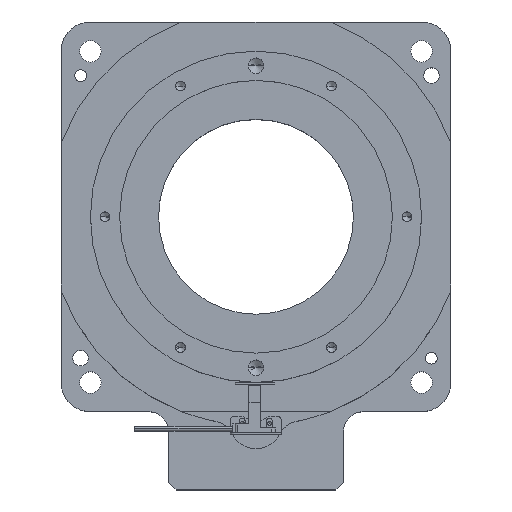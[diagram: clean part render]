
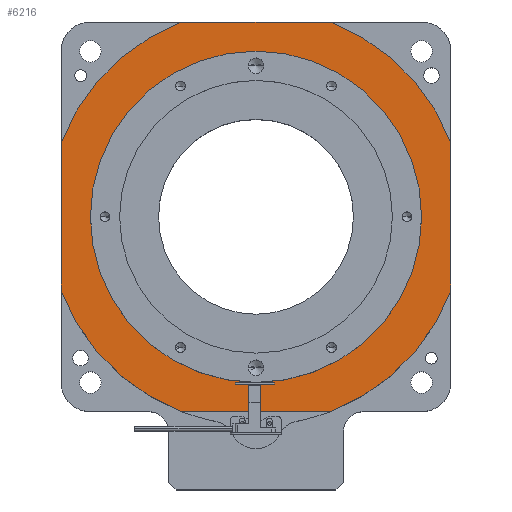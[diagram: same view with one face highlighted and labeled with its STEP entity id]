
A CAD part, top view. The second image highlights one B-rep face of the part: STEP entity #6216.
In plain terms, the highlighted planar face has unit normal (0, 0, 1).
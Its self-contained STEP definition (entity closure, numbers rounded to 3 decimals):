
#211 = ORIENTED_EDGE ( 'NONE', *, *, #3768, .T. ) ;
#305 = AXIS2_PLACEMENT_3D ( 'NONE', #7311, #8568, #551 ) ;
#413 = ORIENTED_EDGE ( 'NONE', *, *, #5952, .T. ) ;
#463 = VECTOR ( 'NONE', #1642, 1000. ) ;
#537 = DIRECTION ( 'NONE',  ( 1., 0., 0. ) ) ;
#551 = DIRECTION ( 'NONE',  ( 1., 0., 0. ) ) ;
#596 = VERTEX_POINT ( 'NONE', #8216 ) ;
#657 = LINE ( 'NONE', #5968, #1710 ) ;
#825 = ORIENTED_EDGE ( 'NONE', *, *, #4043, .T. ) ;
#895 = ORIENTED_EDGE ( 'NONE', *, *, #1575, .T. ) ;
#959 = EDGE_CURVE ( 'NONE', #3040, #4188, #7406, .T. ) ;
#1072 = CARTESIAN_POINT ( 'NONE',  ( -114.791, 29.23, 40.6 ) ) ;
#1224 = CARTESIAN_POINT ( 'NONE',  ( -114.791, 29.23, 40.6 ) ) ;
#1513 = DIRECTION ( 'NONE',  ( 1., 0., 0. ) ) ;
#1547 = VERTEX_POINT ( 'NONE', #2900 ) ;
#1575 = EDGE_CURVE ( 'NONE', #596, #7788, #8519, .T. ) ;
#1642 = DIRECTION ( 'NONE',  ( 1., 0., 0. ) ) ;
#1676 = EDGE_CURVE ( 'NONE', #1547, #5981, #6280, .T. ) ;
#1710 = VECTOR ( 'NONE', #8059, 1000. ) ;
#1877 = DIRECTION ( 'NONE',  ( 1., 0., 0. ) ) ;
#1943 = AXIS2_PLACEMENT_3D ( 'NONE', #5885, #6410, #537 ) ;
#2061 = DIRECTION ( 'NONE',  ( 1., 0., 0. ) ) ;
#2284 = DIRECTION ( 'NONE',  ( -1., 0., 0. ) ) ;
#2310 = CARTESIAN_POINT ( 'NONE',  ( -14.791, -8.836, 40.6 ) ) ;
#2725 = CIRCLE ( 'NONE', #4562, 107. ) ;
#2742 = ORIENTED_EDGE ( 'NONE', *, *, #959, .T. ) ;
#2900 = CARTESIAN_POINT ( 'NONE',  ( 85.209, 29.23, 40.6 ) ) ;
#3040 = VERTEX_POINT ( 'NONE', #1072 ) ;
#3177 = CARTESIAN_POINT ( 'NONE',  ( -114.791, -46.901, 40.6 ) ) ;
#3228 = ORIENTED_EDGE ( 'NONE', *, *, #4319, .T. ) ;
#3289 = PLANE ( 'NONE',  #4693 ) ;
#3417 = FACE_OUTER_BOUND ( 'NONE', #5072, .T. ) ;
#3469 = VECTOR ( 'NONE', #7328, 1000. ) ;
#3644 = CARTESIAN_POINT ( 'NONE',  ( -14.791, -8.836, 40.6 ) ) ;
#3768 = EDGE_CURVE ( 'NONE', #6246, #5624, #8150, .T. ) ;
#3833 = ORIENTED_EDGE ( 'NONE', *, *, #1676, .T. ) ;
#3900 = AXIS2_PLACEMENT_3D ( 'NONE', #3644, #4926, #6948 ) ;
#3931 = VERTEX_POINT ( 'NONE', #8668 ) ;
#3992 = FACE_BOUND ( 'NONE', #7953, .T. ) ;
#4043 = EDGE_CURVE ( 'NONE', #5019, #596, #6212, .T. ) ;
#4076 = CIRCLE ( 'NONE', #305, 107. ) ;
#4188 = VERTEX_POINT ( 'NONE', #3177 ) ;
#4192 = CARTESIAN_POINT ( 'NONE',  ( -14.791, -8.836, 40.6 ) ) ;
#4300 = LINE ( 'NONE', #6984, #8032 ) ;
#4319 = EDGE_CURVE ( 'NONE', #4188, #5019, #4076, .T. ) ;
#4562 = AXIS2_PLACEMENT_3D ( 'NONE', #2310, #5596, #1513 ) ;
#4582 = AXIS2_PLACEMENT_3D ( 'NONE', #4192, #8229, #6261 ) ;
#4693 = AXIS2_PLACEMENT_3D ( 'NONE', #5971, #4782, #2061 ) ;
#4782 = DIRECTION ( 'NONE',  ( 0., 0., 1. ) ) ;
#4888 = ORIENTED_EDGE ( 'NONE', *, *, #5053, .T. ) ;
#4926 = DIRECTION ( 'NONE',  ( 0., 0., 1. ) ) ;
#5019 = VERTEX_POINT ( 'NONE', #6712 ) ;
#5053 = EDGE_CURVE ( 'NONE', #7788, #1547, #657, .T. ) ;
#5072 = EDGE_LOOP ( 'NONE', ( #3228, #825, #895, #4888, #3833, #413, #6644, #2742 ) ) ;
#5436 = CARTESIAN_POINT ( 'NONE',  ( -99.791, -8.836, 40.6 ) ) ;
#5596 = DIRECTION ( 'NONE',  ( 0., 0., 1. ) ) ;
#5622 = CARTESIAN_POINT ( 'NONE',  ( 70.209, -8.836, 40.6 ) ) ;
#5624 = VERTEX_POINT ( 'NONE', #5622 ) ;
#5885 = CARTESIAN_POINT ( 'NONE',  ( -14.791, -8.836, 40.6 ) ) ;
#5910 = DIRECTION ( 'NONE',  ( 0., 0., -1. ) ) ;
#5952 = EDGE_CURVE ( 'NONE', #5981, #3931, #4300, .T. ) ;
#5968 = CARTESIAN_POINT ( 'NONE',  ( 85.209, -46.901, 40.6 ) ) ;
#5971 = CARTESIAN_POINT ( 'NONE',  ( -14.791, -8.836, 40.6 ) ) ;
#5981 = VERTEX_POINT ( 'NONE', #7547 ) ;
#6125 = CARTESIAN_POINT ( 'NONE',  ( -52.857, -108.836, 40.6 ) ) ;
#6212 = LINE ( 'NONE', #6125, #463 ) ;
#6216 = ADVANCED_FACE ( 'NONE', ( #3417, #3992 ), #3289, .T. ) ;
#6246 = VERTEX_POINT ( 'NONE', #5436 ) ;
#6261 = DIRECTION ( 'NONE',  ( 1., 0., 0. ) ) ;
#6280 = CIRCLE ( 'NONE', #1943, 107. ) ;
#6410 = DIRECTION ( 'NONE',  ( 0., 0., 1. ) ) ;
#6644 = ORIENTED_EDGE ( 'NONE', *, *, #6725, .T. ) ;
#6712 = CARTESIAN_POINT ( 'NONE',  ( -52.857, -108.836, 40.6 ) ) ;
#6725 = EDGE_CURVE ( 'NONE', #3931, #3040, #2725, .T. ) ;
#6948 = DIRECTION ( 'NONE',  ( 1., 0., 0. ) ) ;
#6984 = CARTESIAN_POINT ( 'NONE',  ( 23.275, 91.164, 40.6 ) ) ;
#7189 = CARTESIAN_POINT ( 'NONE',  ( -14.791, -8.836, 40.6 ) ) ;
#7311 = CARTESIAN_POINT ( 'NONE',  ( -14.791, -8.836, 40.6 ) ) ;
#7328 = DIRECTION ( 'NONE',  ( 0., -1., 0. ) ) ;
#7406 = LINE ( 'NONE', #1224, #3469 ) ;
#7547 = CARTESIAN_POINT ( 'NONE',  ( 23.275, 91.164, 40.6 ) ) ;
#7652 = ORIENTED_EDGE ( 'NONE', *, *, #7991, .T. ) ;
#7788 = VERTEX_POINT ( 'NONE', #8052 ) ;
#7790 = CIRCLE ( 'NONE', #4582, 85. ) ;
#7953 = EDGE_LOOP ( 'NONE', ( #7652, #211 ) ) ;
#7991 = EDGE_CURVE ( 'NONE', #5624, #6246, #7790, .T. ) ;
#8032 = VECTOR ( 'NONE', #2284, 1000. ) ;
#8052 = CARTESIAN_POINT ( 'NONE',  ( 85.209, -46.901, 40.6 ) ) ;
#8059 = DIRECTION ( 'NONE',  ( 0., 1., 0. ) ) ;
#8150 = CIRCLE ( 'NONE', #8290, 85. ) ;
#8216 = CARTESIAN_POINT ( 'NONE',  ( 23.275, -108.836, 40.6 ) ) ;
#8229 = DIRECTION ( 'NONE',  ( 0., 0., -1. ) ) ;
#8290 = AXIS2_PLACEMENT_3D ( 'NONE', #7189, #5910, #1877 ) ;
#8519 = CIRCLE ( 'NONE', #3900, 107. ) ;
#8568 = DIRECTION ( 'NONE',  ( 0., 0., 1. ) ) ;
#8668 = CARTESIAN_POINT ( 'NONE',  ( -52.857, 91.164, 40.6 ) ) ;
